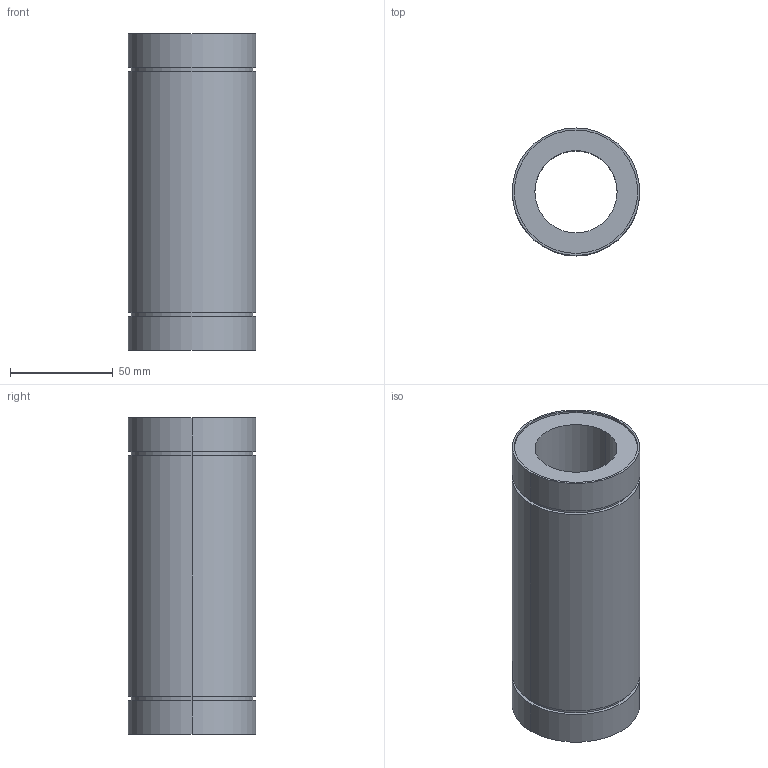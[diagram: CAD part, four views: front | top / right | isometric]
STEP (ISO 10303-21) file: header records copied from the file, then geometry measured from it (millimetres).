
FILE_DESCRIPTION((''),'2;1');
FILE_NAME('C:\Documents and Settings\ｿﾀﾀ蠑ｷ1\ｹﾙﾅﾁ ﾈｭｸ饅\ｺﾎﾇｰﾆﾄﾀﾏ\ﾁｦﾇｰ\LME__LUU\LME40LUU.stp','2005-06-14T18:39:09',('ｿﾀﾀ蠑ｷ1'),(''),'Autodesk Inventor 9','Autodesk Inventor 9','');
FILE_SCHEMA(('AUTOMOTIVE_DESIGN { 1 0 10303 214 1 1 1 1 }'));
Length unit declared in the file: millimetre
Products named in the file (1): LME__
Bounding box: 62 x 62 x 154 mm (x, y, z)
Volume: 267047.2 mm3; surface area: 54098.5 mm2
Topology: 1 solids, 1 shells, 24 faces, 48 edges, 32 vertices
Faces by surface type: cylinder 16, plane 8
Entity records: 671 total; most frequent: DIRECTION 130, CARTESIAN_POINT 105, ORIENTED_EDGE 96, AXIS2_PLACEMENT_3D 57, EDGE_CURVE 48, VERTEX_POINT 32, CIRCLE 32, EDGE_LOOP 32
